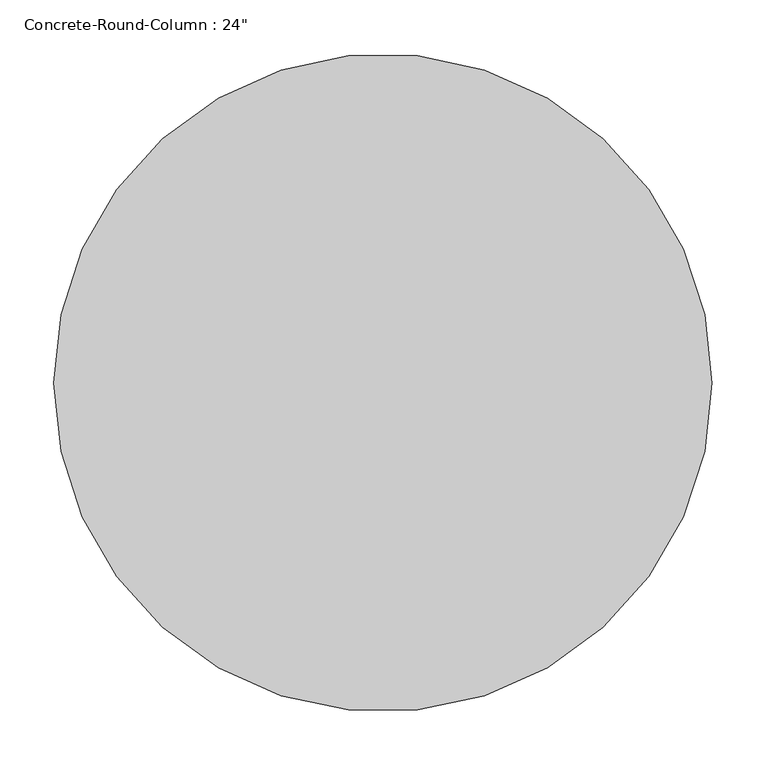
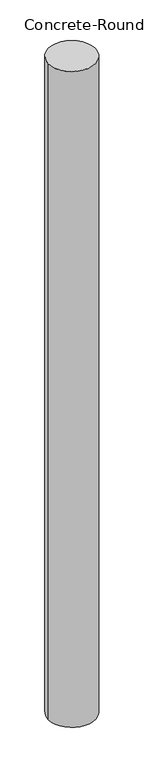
"""IFC4 building model written with IfcOpenShell, lengths in millimetres: column geometry."""

from ifc_helpers import new_model, si_unit, point, origin, origin_with_axes, origin_2d, place, context, project, spatial, circle_curve, trimmed, segment, composite_curve, outline, extrude, source, transform, mapped, element, save


def column_bf595cd3(model_context):
    return source(origin(), model_context, "Body", "SweptSolid", [
        extrude(outline(composite_curve([segment(trimmed(circle_curve(origin_2d(), 304.8), [point((-304.8, 0.0))], [point((304.8, 0.0))], False, "CARTESIAN"), True, "CONTINUOUS"), segment(trimmed(circle_curve(origin_2d(), 304.8), [point((304.8, 0.0))], [point((-304.8, 0.0))], False, "CARTESIAN"), True, "CONTINUOUS")], self_intersect=False)), origin_with_axes(), (0.0, 0.0, 1.0), 9039.225),
    ])


if __name__ == "__main__":
    model = new_model("IFC4")
    model_context = context("Model", 3, world=origin())
    ifc_project = project(units=[si_unit("LENGTHUNIT", "METRE", prefix="MILLI")], contexts=[model_context])
    site = spatial("IfcSite", under=ifc_project)
    building = spatial("IfcBuilding", under=site)
    placement = place(None, origin())
    column_shape = column_bf595cd3(model_context)
    element("IfcColumn", 1, ObjectType="Concrete-Round-Column : 24\"", at=placement, inside=building, context=model_context, shape_type="MappedRepresentation", body=[
        mapped(column_shape, transform((0.0, 0.0, 0.0), x_axis=(1.0, 0.0, 0.0), y_axis=(0.0, 1.0, 0.0), z_axis=(0.0, 0.0, 1.0))),
    ])
    save(model, "model.ifc")
